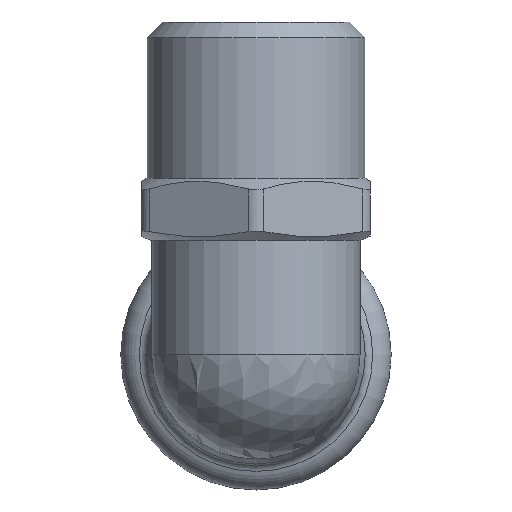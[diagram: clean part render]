
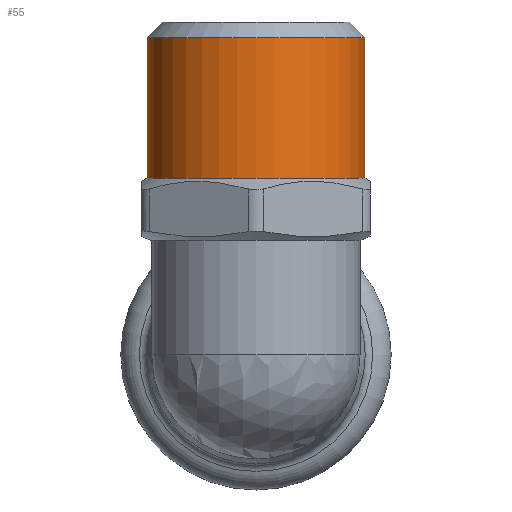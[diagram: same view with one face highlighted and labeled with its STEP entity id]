
A CAD part, front view. The second image highlights one B-rep face of the part: STEP entity #55.
In plain terms, the highlighted cylindrical face has radius 10.477 mm (diameter 20.955 mm), a full revolution.
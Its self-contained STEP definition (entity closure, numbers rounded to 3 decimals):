
#55=ADVANCED_FACE('',(#99,#101),#103,.T.);
#99=FACE_OUTER_BOUND('',#100,.T.);
#100=EDGE_LOOP('',(#426));
#101=FACE_OUTER_BOUND('',#102,.T.);
#102=EDGE_LOOP('',(#427));
#103=CYLINDRICAL_SURFACE('',#104,10.478);
#104=AXIS2_PLACEMENT_3D('',#105,#106,#107);
#105=CARTESIAN_POINT('',(0.,-44.,17.));
#106=DIRECTION('',(0.,0.,1.));
#107=DIRECTION('',(0.,1.,0.));
#426=ORIENTED_EDGE('',*,*,#540,.F.);
#427=ORIENTED_EDGE('',*,*,#541,.T.);
#540=EDGE_CURVE('',#599,#599,#600,.T.);
#541=EDGE_CURVE('',#601,#601,#602,.T.);
#599=VERTEX_POINT('',#703);
#600=CIRCLE('',#704,10.478);
#601=VERTEX_POINT('',#708);
#602=CIRCLE('',#709,10.478);
#703=CARTESIAN_POINT('',(0.,-33.523,30.5));
#704=AXIS2_PLACEMENT_3D('',#705,#706,#707);
#705=CARTESIAN_POINT('',(0.,-44.,30.5));
#706=DIRECTION('',(0.,0.,1.));
#707=DIRECTION('',(0.,1.,0.));
#708=CARTESIAN_POINT('',(0.,-33.523,17.));
#709=AXIS2_PLACEMENT_3D('',#710,#711,#712);
#710=CARTESIAN_POINT('',(0.,-44.,17.));
#711=DIRECTION('',(0.,0.,1.));
#712=DIRECTION('',(0.,1.,0.));
